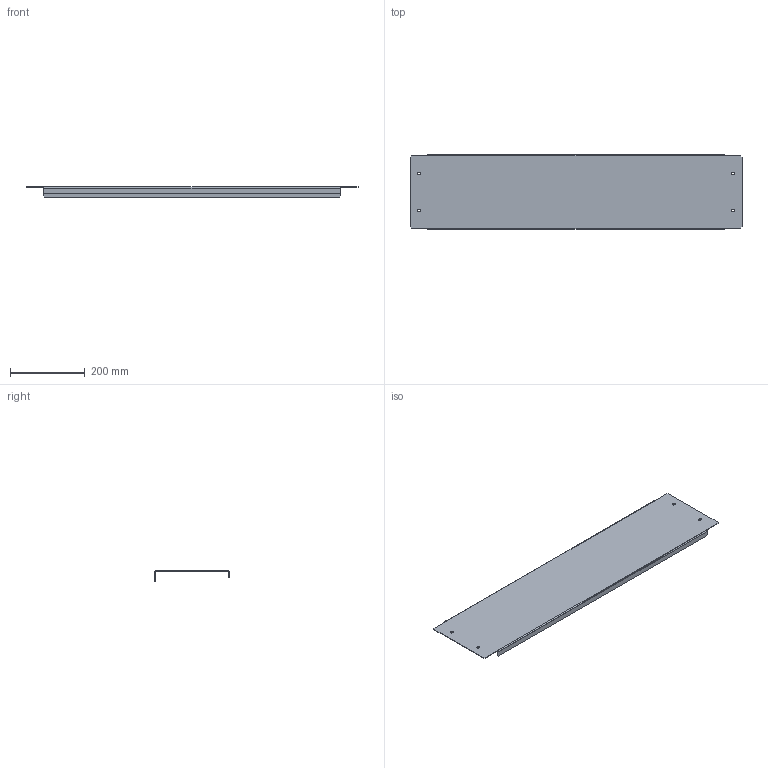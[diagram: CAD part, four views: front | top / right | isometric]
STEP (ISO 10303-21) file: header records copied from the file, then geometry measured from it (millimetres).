
FILE_DESCRIPTION (( 'STEP AP203' ), '1' );
FILE_NAME ('ZA 100 H Ïàíåëü öîêîëÿ.STEP', '2012-11-20T05:17:28', ( 'system' ), ( '' ), 'SwSTEP 2.0', 'SolidWorks 2012', '' );
FILE_SCHEMA (( 'CONFIG_CONTROL_DESIGN' ));
Length unit declared in the file: millimetre
Products named in the file (1): ZA 100 H Ïàíåëü öîêîëÿ
Bounding box: 886.5 x 199 x 27 mm (x, y, z)
Volume: 288709.7 mm3; surface area: 415709.3 mm2
Topology: 1 solids, 1 shells, 54 faces, 140 edges, 88 vertices
Faces by surface type: plane 38, cylinder 16
Entity records: 1721 total; most frequent: CARTESIAN_POINT 283, DIRECTION 282, ORIENTED_EDGE 280, EDGE_CURVE 140, LINE 108, VECTOR 108, VERTEX_POINT 88, AXIS2_PLACEMENT_3D 87
